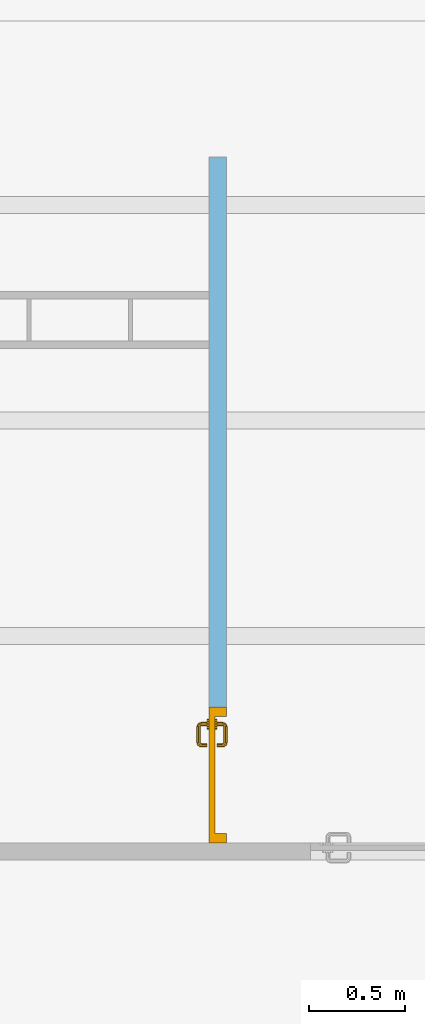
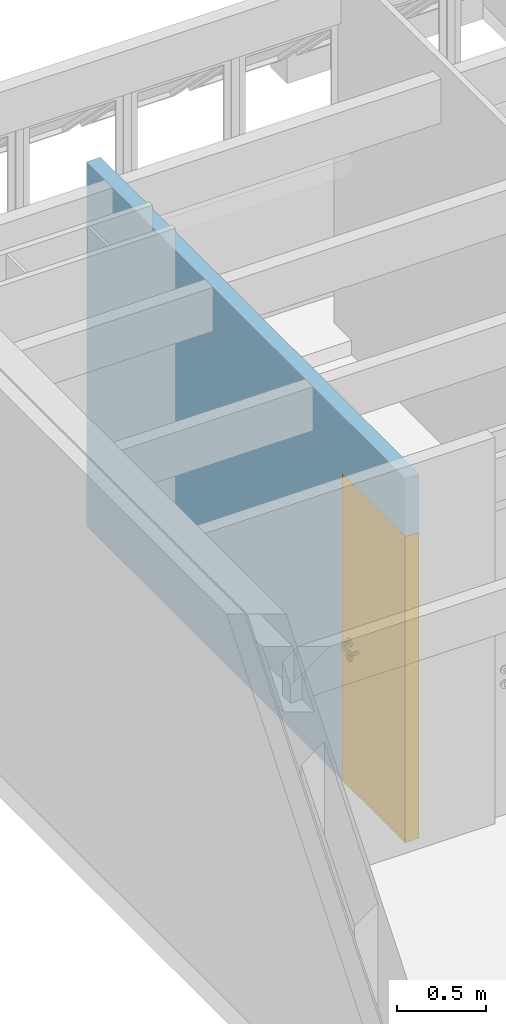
# One storey, part 4 of 22: 1 door, 1 opening, plus 1 element that does not belong to this part.
"""IFC2X3 building model written with IfcOpenShell, lengths in millimetres."""

from ifc_helpers import new_model, si_unit, direction, frame, frame_2d, origin_with_axes, origin_2d_with_axis, place, context, subcontext, project, spatial, polyline, rectangle, outline, extrude, open_shell, faceted_brep, surface_model, source, transform, mapped, material, layer, layer_set, layer_usage, type_object, type_shapes, element, fill, save


model = new_model("IFC2X3")

# Units and contexts
model_context = context("Model", 3, precision=1e-05, world=origin_with_axes(), true_north=direction((0.0, 1.0)))
body_context = subcontext(model_context, "Body", "Model", "MODEL_VIEW")
ifc_project = project(units=[si_unit("LENGTHUNIT", "METRE", prefix="MILLI"), si_unit("AREAUNIT", "SQUARE_METRE"), si_unit("VOLUMEUNIT", "CUBIC_METRE"), si_unit("PLANEANGLEUNIT", "RADIAN"), si_unit("TIMEUNIT", "SECOND"), si_unit("MASSUNIT", "GRAM")], contexts=[model_context])

# Site, building, storey
site_placement = place(None, origin_with_axes())
site = spatial("IfcSite", under=ifc_project, at=site_placement, Name="Site", CompositionType="ELEMENT")
building_placement = place(site_placement, origin_with_axes())
building = spatial("IfcBuilding", under=site, at=building_placement, Name="Construção", CompositionType="COMPLEX")
storey_placement = place(building_placement, frame((0.0, 0.0, 2650.0), z_axis=(0.0, 0.0, 1.0), x_axis=(1.0, 0.0, 0.0)))
storey = spatial("IfcBuildingStorey", under=building, at=storey_placement, Name="Segundo Pavimento", CompositionType="COMPLEX", Elevation=2650.0)

# Wall, opening, door
ifc_material = material(Name="GENÉRICO - VEDAÇÃO EXTERNA")
ifc_layer = layer(ifc_material, 90.0)
ifc_layer_set = layer_set([ifc_layer], Name="GENÉRICO - VEDAÇÃO EXTERNA 90")
ifc_layer_usage = layer_usage(ifc_layer_set, "AXIS2", "POSITIVE", 0.0)
wall_type = type_object("IfcWallType", Name="GENÉRICO - VEDAÇÃO EXTERNA 90", PredefinedType="STANDARD", material=ifc_layer_set)
wall_placement = place(storey_placement, frame((1730.0, 3765.2195667, 0.0), z_axis=(0.0, 0.0, 1.0), x_axis=(0.0, 1.0, 0.0)))
wall = element("IfcWallStandardCase", 1, at=wall_placement, inside=storey, type_object=wall_type, material=ifc_layer_usage, Name="APTO5-PAREDE-012", context=body_context, shape_type="SweptSolid", body=[
    extrude(rectangle(XDim=3580.0, YDim=90.0, at=origin_2d_with_axis()), frame((1790.0, 45.0, 0.0), z_axis=(0.0, 0.0, 1.0), x_axis=(1.0, 0.0, 0.0)), (0.0, 0.0, 1.0), 2500.0),
])
opening_placement = place(wall_placement, frame((710.0, 90.0, 0.0), z_axis=(0.0, 0.0, 1.0), x_axis=(-1.0, 0.0, 0.0)))
opening = element("IfcOpeningElement", 2, at=opening_placement, cuts=wall, ObjectType="Opening", context=body_context, shape_type="SweptSolid", body=[
    extrude(outline(polyline([(355.0, 1050.0), (355.0, -1050.0), (-355.0, -1050.0), (-355.0, 1050.0), (355.0, 1050.0)])), frame((355.0, 0.0, 1050.0), z_axis=(0.0, 1.0, 0.0), x_axis=(1.0, 0.0, 0.0)), (0.0, 0.0, 1.0), 270.0),
])
door_style = type_object("IfcDoorStyle", Name="Porta 25", ConstructionType="NOTDEFINED", OperationType="SINGLE_SWING_LEFT", ParameterTakesPrecedence=False, Sizeable=False)
shared_shape_1 = source(origin_with_axes(), body_context, "Body", "SolidModel", [
    extrude(outline(polyline([(10.0, -10.0), (10.0, -40.0), (-30.0, -40.0), (-30.0, 50.0), (20.0, 50.0), (20.0, -10.0), (10.0, -10.0)])), frame((30.0, 0.0, -40.0), z_axis=(0.0, 1.0, 0.0), x_axis=(1.0, 0.0, 0.0)), (0.0, 0.0, 1.0), 2050.0),
])
shared_shape_2 = source(origin_with_axes(), body_context, "Body", "SolidModel", [
    extrude(outline(polyline([(-10.0, -10.0), (-20.0, -10.0), (-20.0, 50.0), (30.0, 50.0), (30.0, -40.0), (-10.0, -40.0), (-10.0, -10.0)])), frame((680.0, 0.0, -40.0), z_axis=(0.0, 1.0, 0.0), x_axis=(1.0, 0.0, 0.0)), (0.0, 0.0, 1.0), 2050.0),
])
shared_shape_3 = source(origin_with_axes(), body_context, "Body", "SolidModel", [
    faceted_brep([(670.0, 2050.0, -30.0), (670.0, 2060.0, -30.0), (39.99999999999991, 2060.0, -29.99999999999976), (39.99999999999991, 2050.0, -29.99999999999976), (710.0, 2050.0, -90.0), (0.0, 2050.0, -90.0), (0.0, 2100.0, -90.0), (710.0, 2100.0, -90.0), (39.99999999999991, 2050.0, 0.0), (39.99999999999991, 2060.0, 0.0), (0.0, 2050.0, 0.0), (0.0, 2100.0, 0.0), (710.0, 2100.0, 0.0), (710.0, 2050.0, 0.0), (670.0, 2050.0, 0.0), (670.0, 2060.0, 0.0)], [[[0, 1, 2, 3]], [[4, 5, 6, 7]], [[8, 3, 2, 9]], [[10, 11, 6, 5]], [[11, 12, 7, 6]], [[12, 13, 4, 7]], [[0, 3, 8, 10, 5, 4, 13, 14]], [[15, 1, 0, 14]], [[9, 2, 1, 15]], [[9, 15, 14, 13, 12, 11, 10, 8]]]),
])
shared_shape_4 = source(origin_with_axes(), body_context, "Body", "SolidModel", [
    extrude(outline(polyline([(0.0, 27.00000000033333), (13.49999999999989, 23.38268590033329), (23.38268590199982, 13.50000000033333), (26.99999999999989, 3.333298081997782e-10), (23.38268590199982, -13.49999999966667), (13.49999999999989, -23.38268590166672), (0.0, -26.99999999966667), (-13.50000000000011, -23.38268590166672), (-23.38268590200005, -13.49999999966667), (-27.0, 3.333298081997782e-10), (-23.38268590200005, 13.50000000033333), (-13.50000000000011, 23.38268590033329), (0.0, 27.00000000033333)])), frame((90.0, 999.9999999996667, -40.0), z_axis=(0.0, 0.0, 1.0), x_axis=(1.0, 0.0, 0.0)), (0.0, 0.0, 1.0), 10.0),
])
shared_shape_5 = source(origin_with_axes(), body_context, "Body", "SolidModel", [
    faceted_brep([(67.48333950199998, 913.0, -39.0), (67.48333950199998, 913.0, -30.0), (64.0, 900.0, -30.0), (64.0, 900.0, -39.0), (67.48333950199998, 887.0, -30.0), (67.48333950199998, 887.0, -39.0), (63.0, 900.0, -30.0), (63.0, 900.0, -40.0), (66.61731409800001, 886.5, -40.0), (66.61731409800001, 886.5, -30.0), (66.61731409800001, 913.5, -30.0), (66.61731409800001, 913.5, -40.0), (77.0, 877.483339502, -30.0), (77.0, 877.483339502, -39.0), (90.0, 874.0, -30.0), (90.0, 874.0, -39.0), (76.5, 876.617314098, -40.0), (76.5, 876.617314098, -30.0), (77.0, 922.516660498, -39.0), (77.0, 922.516660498, -30.0), (103.0, 877.483339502, -39.0), (103.0, 877.483339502, -30.0), (112.516660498, 887.0, -30.0), (112.516660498, 887.0, -39.0), (90.0, 873.0, -40.0), (90.0, 873.0, -30.0), (112.516660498, 913.0, -30.0), (116.0, 900.0, -30.0), (90.0, 926.0, -30.0), (103.0, 922.516660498, -30.0), (117.0, 900.0, -30.0), (113.382685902, 913.5, -30.0), (103.5, 923.382685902, -30.0), (90.0, 927.0, -30.0), (76.5, 923.382685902, -30.0), (103.5, 876.617314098, -30.0), (113.382685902, 886.5, -30.0), (116.0, 900.0, -39.0), (112.516660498, 913.0, -39.0), (113.382685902, 886.5, -40.0), (117.0, 900.0, -40.0), (103.5, 876.617314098, -40.0), (82.53216922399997, 909.692280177, -40.0), (82.53216922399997, 909.692280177, -39.0), (85.0, 904.4, -39.0), (85.0, 904.4, -40.0), (85.0, 887.5, -39.0), (85.0, 887.5, -40.0), (86.46446609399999, 883.964466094, -40.0), (86.46446609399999, 883.964466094, -39.0), (90.0, 882.5, -40.0), (90.0, 882.5, -39.0), (76.5, 923.382685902, -40.0), (90.0, 926.0, -39.0), (90.0, 927.0, -40.0), (103.0, 922.516660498, -39.0), (113.382685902, 913.5, -40.0), (103.5, 923.382685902, -40.0), (95.0, 887.5, -40.0), (93.53553390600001, 883.964466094, -40.0), (93.53553390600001, 883.964466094, -39.0), (95.0, 887.5, -39.0), (84.62481768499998, 915.143815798, -40.0), (84.62481768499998, 915.143815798, -39.0), (83.279754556, 911.639806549, -39.0), (83.279754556, 911.639806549, -40.0), (90.0, 917.425445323, -40.0), (90.0, 917.425445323, -39.0), (95.37518231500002, 915.143815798, -40.0), (95.37518231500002, 915.143815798, -39.0), (96.720245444, 911.639806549, -39.0), (97.46783077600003, 909.692280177, -39.0), (95.0, 904.4, -39.0), (95.0, 904.4, -40.0), (97.46783077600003, 909.692280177, -40.0), (96.720245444, 911.639806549, -40.0)], [[[0, 1, 2, 3]], [[3, 2, 4, 5]], [[6, 7, 8, 9]], [[10, 11, 7, 6]], [[5, 4, 12, 13]], [[13, 12, 14, 15]], [[9, 8, 16, 17]], [[18, 19, 1, 0]], [[20, 21, 22, 23]], [[17, 16, 24, 25]], [[26, 27, 22, 21, 14, 12, 4, 2, 1, 19, 28, 29], [30, 31, 32, 33, 34, 10, 6, 9, 17, 25, 35, 36]], [[15, 14, 21, 20]], [[37, 27, 26, 38]], [[36, 39, 40, 30]], [[25, 24, 41, 35]], [[35, 41, 39, 36]], [[23, 22, 27, 37]], [[42, 43, 44, 45]], [[44, 46, 47, 45]], [[48, 47, 46, 49]], [[50, 48, 49, 51]], [[34, 52, 11, 10]], [[53, 28, 19, 18]], [[33, 54, 52, 34]], [[55, 29, 28, 53]], [[38, 26, 29, 55]], [[31, 56, 57, 32]], [[58, 59, 60, 61]], [[59, 50, 51, 60]], [[32, 57, 54, 33]], [[30, 40, 56, 31]], [[62, 63, 64, 43, 42, 65]], [[66, 67, 63, 62]], [[68, 69, 67, 66]], [[55, 53, 18, 0, 3, 5, 13, 15, 20, 23, 37, 38], [69, 70, 71, 72, 61, 60, 51, 49, 46, 44, 43, 64, 63, 67]], [[73, 72, 71, 74]], [[73, 58, 61, 72]], [[74, 71, 70, 69, 68, 75]], [[57, 56, 40, 39, 41, 24, 16, 8, 7, 11, 52, 54], [74, 75, 68, 66, 62, 65, 42, 45, 47, 48, 50, 59, 58, 73]]], outer=[[True], [True], [True], [True], [True], [True], [True], [True], [True], [True], [False, True], [True], [True], [True], [True], [True], [True], [True], [True], [True], [True], [True], [True], [True], [True], [True], [True], [True], [True], [True], [True], [True], [True], [True], [True, False], [True], [True], [True], [True, False]]),
])
shared_shape_6 = source(origin_with_axes(), body_context, "Body", "SurfaceModel", [
    surface_model("IfcShellBasedSurfaceModel", [(198.858192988, 990.0, -75.74025148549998), (200.0, 990.0, -70.0), (192.928932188, 992.928932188, -69.303560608), (192.197392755, 992.928932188, -72.9812576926), (198.858192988, 1010.0, -75.74025148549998), (200.0, 1010.0, -70.0), (207.071067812, 1007.07106781, -70.696439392), (205.518993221, 1007.07106781, -78.49924527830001), (200.0, 990.0, -40.0), (192.928932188, 992.928932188, -40.0), (190.0, 1000.0, -40.0), (190.0, 1000.0, -69.0150859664), (192.928932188, 1007.07106781, -40.0), (192.928932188, 1007.07106781, -69.303560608), (200.0, 1010.0, -40.0), (207.071067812, 1007.07106781, -40.0), (207.071067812, 992.928932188, -70.696439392), (207.071067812, 992.928932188, -40.0), (210.0, 1000.0, -40.0), (210.0, 1000.0, -70.9849140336), (205.518993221, 992.928932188, -78.49924527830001), (208.277987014, 1000.0, -79.6420579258), (189.438398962, 1000.0, -71.83844504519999), (192.197392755, 1007.07106781, -72.9812576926), (195.606601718, 990.0, -80.6066017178), (190.508645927, 992.928932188, -75.5086459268), (195.606601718, 1010.0, -80.6066017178), (200.704557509, 1007.07106781, -85.70455750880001), (190.508645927, 1007.07106781, -75.5086459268), (187.981257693, 1007.07106781, -77.19739275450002), (190.740251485, 1010.0, -83.8581929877), (188.397003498, 1000.0, -73.39700349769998), (186.838445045, 1000.0, -74.43839896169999), (184.015085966, 1000.0, -75.0), (184.303560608, 1007.07106781, -77.92893218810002), (187.981257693, 992.928932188, -77.19739275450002), (200.704557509, 992.928932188, -85.70455750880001), (202.816199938, 1000.0, -87.8161999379), (194.642057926, 1000.0, -93.2779870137), (193.499245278, 992.928932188, -90.51899322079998), (193.499245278, 1007.07106781, -90.51899322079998), (185.0, 1010.0, -85.0), (185.696439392, 1007.07106781, -92.07106781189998), (184.303560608, 992.928932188, -77.92893218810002), (190.740251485, 990.0, -83.8581929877), (105.984914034, 1000.0, -75.0), (105.696439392, 1007.07106781, -77.92893218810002), (105.0, 1010.0, -85.0), (103.161554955, 1000.0, -74.43839896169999), (102.018742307, 1007.07106781, -77.19739275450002), (105.696439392, 992.928932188, -77.92893218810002), (185.0, 990.0, -85.0), (102.018742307, 992.928932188, -77.19739275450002), (105.0, 990.0, -85.0), (185.696439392, 992.928932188, -92.07106781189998), (185.984914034, 1000.0, -95.0), (99.25974851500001, 990.0, -83.8581929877), (99.491354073, 1007.07106781, -75.5086459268), (99.25974851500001, 1010.0, -83.8581929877), (94.39339828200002, 1010.0, -80.6066017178), (96.50075472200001, 1007.07106781, -90.51899322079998), (89.29544249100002, 1007.07106781, -85.70455750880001), (104.303560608, 1007.07106781, -92.07106781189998), (101.602996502, 1000.0, -73.39700349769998), (104.303560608, 992.928932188, -92.07106781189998), (100.561601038, 1000.0, -71.83844504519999), (97.80260724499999, 1007.07106781, -72.9812576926), (99.491354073, 992.928932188, -75.5086459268), (104.015085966, 1000.0, -95.0), (97.80260724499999, 992.928932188, -72.9812576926), (94.39339828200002, 990.0, -80.6066017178), (96.50075472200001, 992.928932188, -90.51899322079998), (95.357942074, 1000.0, -93.2779870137), (91.14180701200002, 1010.0, -75.74025148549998), (100.0, 1000.0, -69.0150859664), (97.07106781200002, 1007.07106781, -69.303560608), (87.18380006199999, 1000.0, -87.8161999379), (97.07106781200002, 1007.07106781, -40.0), (90.0, 1010.0, -70.0), (90.0, 1010.0, -40.0), (100.0, 1000.0, -40.0), (97.07106781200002, 992.928932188, -69.303560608), (97.07106781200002, 992.928932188, -40.0), (90.0, 990.0, -40.0), (90.0, 990.0, -70.0), (91.14180701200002, 990.0, -75.74025148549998), (89.29544249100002, 992.928932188, -85.70455750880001), (84.48100677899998, 992.928932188, -78.49924527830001), (82.92893218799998, 992.928932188, -70.696439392), (81.72201298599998, 1000.0, -79.6420579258), (84.48100677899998, 1007.07106781, -78.49924527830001), (82.92893218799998, 1007.07106781, -70.696439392), (80.0, 1000.0, -70.9849140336), (82.92893218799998, 1007.07106781, -40.0), (82.92893218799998, 992.928932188, -40.0), (80.0, 1000.0, -40.0)], [open_shell([[[0, 1, 2, 3]], [[4, 5, 6, 7]], [[1, 8, 9, 2]], [[2, 9, 10, 11]], [[11, 10, 12, 13]], [[13, 12, 14, 5]], [[5, 14, 15, 6]], [[16, 17, 8, 1]], [[18, 15, 14, 12, 10, 9, 8, 17]], [[6, 15, 18, 19]], [[19, 18, 17, 16]], [[20, 16, 1, 0]], [[7, 6, 19, 21]], [[22, 11, 13, 23]], [[3, 2, 11, 22]], [[24, 0, 3, 25]], [[26, 4, 7, 27]], [[23, 13, 5, 4]], [[28, 23, 4, 26]], [[29, 28, 26, 30]], [[31, 22, 23, 28]], [[32, 31, 28, 29]], [[25, 3, 22, 31]], [[33, 32, 29, 34]], [[35, 25, 31, 32]], [[36, 20, 0, 24]], [[21, 19, 16, 20]], [[37, 21, 20, 36]], [[38, 37, 36, 39]], [[27, 7, 21, 37]], [[40, 27, 37, 38]], [[30, 26, 27, 40]], [[34, 29, 30, 41]], [[41, 30, 40, 42]], [[43, 35, 32, 33]], [[44, 24, 25, 35]], [[45, 33, 34, 46]], [[46, 34, 41, 47]], [[48, 45, 46, 49]], [[50, 43, 33, 45]], [[51, 44, 35, 43]], [[39, 36, 24, 44]], [[52, 50, 45, 48]], [[53, 51, 43, 50]], [[54, 39, 44, 51]], [[42, 40, 38, 55]], [[56, 53, 50, 52]], [[57, 49, 58, 59]], [[59, 58, 60, 61]], [[47, 41, 42, 62]], [[49, 46, 47, 58]], [[63, 48, 49, 57]], [[64, 54, 51, 53]], [[55, 38, 39, 54]], [[65, 63, 57, 66]], [[67, 52, 48, 63]], [[62, 42, 55, 68]], [[58, 47, 62, 60]], [[69, 67, 63, 65]], [[70, 56, 52, 67]], [[71, 64, 53, 56]], [[68, 55, 54, 64]], [[60, 62, 68, 72]], [[66, 57, 59, 73]], [[74, 65, 66, 75]], [[72, 68, 64, 71]], [[61, 60, 72, 76]], [[77, 75, 78, 79]], [[80, 74, 75, 77]], [[81, 69, 65, 74]], [[82, 81, 74, 80]], [[83, 84, 81, 82]], [[85, 70, 67, 69]], [[86, 71, 56, 70]], [[76, 72, 71, 86]], [[84, 85, 69, 81]], [[87, 86, 70, 85]], [[88, 87, 85, 84]], [[89, 76, 86, 87]], [[73, 59, 61, 90]], [[75, 66, 73, 78]], [[90, 61, 76, 89]], [[78, 73, 90, 91]], [[91, 90, 89, 92]], [[79, 78, 91, 93]], [[94, 88, 84, 83]], [[92, 89, 87, 88]], [[93, 91, 92, 95]], [[95, 92, 88, 94]]])]),
])
shared_shape_7 = source(origin_with_axes(), body_context, "Body", "SolidModel", [
    extrude(outline(polyline([(0.0, 27.00000000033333), (13.49999999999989, 23.38268590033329), (23.38268590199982, 13.50000000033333), (26.99999999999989, 3.333298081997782e-10), (23.38268590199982, -13.49999999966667), (13.49999999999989, -23.38268590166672), (0.0, -26.99999999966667), (-13.50000000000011, -23.38268590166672), (-23.38268590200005, -13.49999999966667), (-27.0, 3.333298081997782e-10), (-23.38268590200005, 13.50000000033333), (-13.50000000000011, 23.38268590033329), (0.0, 27.00000000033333)])), frame((90.0, 999.9999999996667, 0.0), z_axis=(0.0, 0.0, 1.0), x_axis=(1.0, 0.0, 0.0)), (0.0, 0.0, 1.0), 10.0),
])
shared_shape_8 = source(origin_with_axes(), body_context, "Body", "SolidModel", [
    faceted_brep([(86.46446609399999, 883.964466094, 9.0), (85.0, 887.5, 9.0), (85.0, 887.5, 10.0), (86.46446609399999, 883.964466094, 10.0), (90.0, 882.5, 9.0), (90.0, 882.5, 10.0), (76.5, 923.382685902, 10.0), (76.5, 923.382685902, 0.0), (66.61731409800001, 913.5, 0.0), (66.61731409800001, 913.5, 10.0), (90.0, 927.0, 10.0), (90.0, 927.0, 0.0), (76.5, 876.617314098, 10.0), (76.5, 876.617314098, 0.0), (90.0, 873.0, 0.0), (90.0, 873.0, 10.0), (103.5, 876.617314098, 0.0), (103.5, 876.617314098, 10.0), (113.382685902, 886.5, 0.0), (113.382685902, 886.5, 10.0), (117.0, 900.0, 0.0), (117.0, 900.0, 10.0), (113.382685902, 913.5, 0.0), (113.382685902, 913.5, 10.0), (103.5, 923.382685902, 10.0), (103.5, 923.382685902, 0.0), (66.61731409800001, 886.5, 10.0), (66.61731409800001, 886.5, 0.0), (63.0, 900.0, 10.0), (63.0, 900.0, 0.0), (64.0, 900.0, 9.0), (67.48333950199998, 887.0, 9.0), (67.48333950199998, 887.0, 0.0), (64.0, 900.0, 0.0), (67.48333950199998, 913.0, 9.0), (67.48333950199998, 913.0, 0.0), (77.0, 922.516660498, 9.0), (77.0, 922.516660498, 0.0), (116.0, 900.0, 0.0), (112.516660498, 913.0, 0.0), (103.0, 922.516660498, 0.0), (90.0, 926.0, 0.0), (77.0, 877.483339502, 0.0), (90.0, 874.0, 0.0), (103.0, 877.483339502, 0.0), (112.516660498, 887.0, 0.0), (77.0, 877.483339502, 9.0), (90.0, 874.0, 9.0), (103.0, 877.483339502, 9.0), (112.516660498, 887.0, 9.0), (90.0, 926.0, 9.0), (103.0, 922.516660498, 9.0), (85.0, 904.4, 10.0), (85.0, 904.4, 9.0), (82.53216922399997, 909.692280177, 9.0), (82.53216922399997, 909.692280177, 10.0), (116.0, 900.0, 9.0), (93.53553390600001, 883.964466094, 9.0), (93.53553390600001, 883.964466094, 10.0), (112.516660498, 913.0, 9.0), (84.62481768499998, 915.143815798, 9.0), (84.62481768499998, 915.143815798, 10.0), (83.279754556, 911.639806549, 10.0), (83.279754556, 911.639806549, 9.0), (90.0, 917.425445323, 9.0), (90.0, 917.425445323, 10.0), (95.37518231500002, 915.143815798, 10.0), (96.720245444, 911.639806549, 10.0), (97.46783077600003, 909.692280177, 10.0), (95.0, 904.4, 10.0), (95.0, 887.5, 10.0), (95.37518231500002, 915.143815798, 9.0), (95.0, 887.5, 9.0), (95.0, 904.4, 9.0), (97.46783077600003, 909.692280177, 9.0), (96.720245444, 911.639806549, 9.0)], [[[0, 1, 2, 3]], [[4, 0, 3, 5]], [[6, 7, 8, 9]], [[10, 11, 7, 6]], [[12, 13, 14, 15]], [[15, 14, 16, 17]], [[17, 16, 18, 19]], [[19, 18, 20, 21]], [[21, 20, 22, 23]], [[24, 25, 11, 10]], [[23, 22, 25, 24]], [[26, 27, 13, 12]], [[28, 29, 27, 26]], [[9, 8, 29, 28]], [[30, 31, 32, 33]], [[34, 30, 33, 35]], [[36, 34, 35, 37]], [[18, 16, 14, 13, 27, 29, 8, 7, 11, 25, 22, 20], [38, 39, 40, 41, 37, 35, 33, 32, 42, 43, 44, 45]], [[31, 46, 42, 32]], [[46, 47, 43, 42]], [[47, 48, 44, 43]], [[48, 49, 45, 44]], [[50, 36, 37, 41]], [[51, 50, 41, 40]], [[52, 2, 1, 53]], [[54, 55, 52, 53]], [[49, 56, 38, 45]], [[57, 4, 5, 58]], [[56, 59, 39, 38]], [[59, 51, 40, 39]], [[60, 61, 62, 55, 54, 63]], [[64, 65, 61, 60]], [[23, 24, 10, 6, 9, 28, 26, 12, 15, 17, 19, 21], [66, 67, 68, 69, 70, 58, 5, 3, 2, 52, 55, 62, 61, 65]], [[71, 66, 65, 64]], [[72, 57, 58, 70]], [[73, 69, 68, 74]], [[73, 72, 70, 69]], [[74, 68, 67, 66, 71, 75]], [[50, 51, 59, 56, 49, 48, 47, 46, 31, 30, 34, 36], [74, 75, 71, 64, 60, 63, 54, 53, 1, 0, 4, 57, 72, 73]]]),
])
shared_shape_9 = source(origin_with_axes(), body_context, "Body", "SurfaceModel", [
    surface_model("IfcShellBasedSurfaceModel", [(200.0, 990.0, 40.0), (192.928932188, 992.928932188, 39.303560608), (192.928932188, 992.928932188, 10.0), (200.0, 990.0, 10.0), (190.0, 1000.0, 39.0150859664), (190.0, 1000.0, 10.0), (192.197392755, 992.928932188, 42.9812576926), (189.438398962, 1000.0, 41.8384450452), (192.928932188, 1007.07106781, 39.303560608), (192.928932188, 1007.07106781, 10.0), (192.197392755, 1007.07106781, 42.9812576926), (200.0, 1010.0, 40.0), (200.0, 1010.0, 10.0), (198.858192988, 1010.0, 45.7402514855), (207.071067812, 1007.07106781, 40.696439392), (207.071067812, 1007.07106781, 10.0), (205.518993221, 1007.07106781, 48.4992452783), (210.0, 1000.0, 40.9849140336), (210.0, 1000.0, 10.0), (207.071067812, 992.928932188, 10.0), (190.508645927, 1007.07106781, 45.5086459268), (195.606601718, 1010.0, 50.6066017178), (188.397003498, 1000.0, 43.3970034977), (187.981257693, 1007.07106781, 47.1973927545), (190.740251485, 1010.0, 53.8581929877), (190.508645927, 992.928932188, 45.5086459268), (186.838445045, 1000.0, 44.4383989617), (207.071067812, 992.928932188, 40.696439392), (198.858192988, 990.0, 45.7402514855), (200.704557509, 1007.07106781, 55.7045575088), (208.277987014, 1000.0, 49.6420579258), (205.518993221, 992.928932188, 48.4992452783), (200.704557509, 992.928932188, 55.7045575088), (195.606601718, 990.0, 50.6066017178), (193.499245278, 1007.07106781, 60.5189932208), (202.816199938, 1000.0, 57.8161999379), (194.642057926, 1000.0, 63.2779870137), (185.696439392, 1007.07106781, 62.0710678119), (185.984914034, 1000.0, 65.0), (193.499245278, 992.928932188, 60.5189932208), (185.0, 1010.0, 55.0), (184.303560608, 1007.07106781, 47.9289321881), (105.0, 1010.0, 55.0), (104.303560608, 1007.07106781, 62.0710678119), (105.696439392, 1007.07106781, 47.9289321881), (187.981257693, 992.928932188, 47.1973927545), (184.015085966, 1000.0, 45.0), (105.696439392, 992.928932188, 47.9289321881), (105.984914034, 1000.0, 45.0), (184.303560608, 992.928932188, 47.9289321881), (190.740251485, 990.0, 53.8581929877), (102.018742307, 1007.07106781, 47.1973927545), (99.25974851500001, 1010.0, 53.8581929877), (103.161554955, 1000.0, 44.4383989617), (102.018742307, 992.928932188, 47.1973927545), (101.602996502, 1000.0, 43.3970034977), (99.491354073, 1007.07106781, 45.5086459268), (185.0, 990.0, 55.0), (185.696439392, 992.928932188, 62.0710678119), (105.0, 990.0, 55.0), (94.39339828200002, 1010.0, 50.6066017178), (104.303560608, 992.928932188, 62.0710678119), (99.25974851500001, 990.0, 53.8581929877), (104.015085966, 1000.0, 65.0), (96.50075472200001, 1007.07106781, 60.5189932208), (95.357942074, 1000.0, 63.2779870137), (96.50075472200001, 992.928932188, 60.5189932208), (89.29544249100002, 992.928932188, 55.7045575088), (94.39339828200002, 990.0, 50.6066017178), (87.18380006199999, 1000.0, 57.8161999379), (89.29544249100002, 1007.07106781, 55.7045575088), (81.72201298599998, 1000.0, 49.6420579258), (84.48100677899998, 992.928932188, 48.4992452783), (84.48100677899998, 1007.07106781, 48.4992452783), (97.80260724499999, 1007.07106781, 42.9812576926), (91.14180701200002, 1010.0, 45.7402514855), (97.07106781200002, 1007.07106781, 39.303560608), (90.0, 1010.0, 40.0), (97.07106781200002, 1007.07106781, 10.0), (90.0, 1010.0, 10.0), (82.92893218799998, 1007.07106781, 40.696439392), (91.14180701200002, 990.0, 45.7402514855), (99.491354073, 992.928932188, 45.5086459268), (97.80260724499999, 992.928932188, 42.9812576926), (100.561601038, 1000.0, 41.8384450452), (100.0, 1000.0, 39.0150859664), (97.07106781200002, 992.928932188, 39.303560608), (100.0, 1000.0, 10.0), (90.0, 990.0, 40.0), (97.07106781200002, 992.928932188, 10.0), (82.92893218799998, 992.928932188, 40.696439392), (90.0, 990.0, 10.0), (82.92893218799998, 1007.07106781, 10.0), (80.0, 1000.0, 40.9849140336), (80.0, 1000.0, 10.0), (82.92893218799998, 992.928932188, 10.0)], [open_shell([[[0, 1, 2, 3]], [[1, 4, 5, 2]], [[6, 7, 4, 1]], [[4, 8, 9, 5]], [[7, 10, 8, 4]], [[8, 11, 12, 9]], [[10, 13, 11, 8]], [[11, 14, 15, 12]], [[13, 16, 14, 11]], [[14, 17, 18, 15]], [[18, 19, 3, 2, 5, 9, 12, 15]], [[20, 21, 13, 10]], [[22, 20, 10, 7]], [[23, 24, 21, 20]], [[25, 22, 7, 6]], [[26, 23, 20, 22]], [[27, 0, 3, 19]], [[28, 6, 1, 0]], [[21, 29, 16, 13]], [[16, 30, 17, 14]], [[17, 27, 19, 18]], [[31, 28, 0, 27]], [[30, 31, 27, 17]], [[32, 33, 28, 31]], [[24, 34, 29, 21]], [[29, 35, 30, 16]], [[34, 36, 35, 29]], [[35, 32, 31, 30]], [[37, 38, 36, 34]], [[36, 39, 32, 35]], [[40, 37, 34, 24]], [[41, 40, 24, 23]], [[42, 43, 37, 40]], [[44, 42, 40, 41]], [[33, 25, 6, 28]], [[45, 26, 22, 25]], [[46, 41, 23, 26]], [[47, 48, 46, 49]], [[50, 45, 25, 33]], [[49, 46, 26, 45]], [[48, 44, 41, 46]], [[51, 52, 42, 44]], [[53, 51, 44, 48]], [[54, 53, 48, 47]], [[55, 56, 51, 53]], [[39, 50, 33, 32]], [[57, 49, 45, 50]], [[58, 57, 50, 39]], [[59, 47, 49, 57]], [[56, 60, 52, 51]], [[38, 58, 39, 36]], [[61, 59, 57, 58]], [[62, 54, 47, 59]], [[63, 61, 58, 38]], [[52, 64, 43, 42]], [[43, 63, 38, 37]], [[64, 65, 63, 43]], [[66, 62, 59, 61]], [[65, 66, 61, 63]], [[67, 68, 62, 66]], [[69, 67, 66, 65]], [[70, 69, 65, 64]], [[71, 72, 67, 69]], [[60, 70, 64, 52]], [[73, 71, 69, 70]], [[74, 75, 60, 56]], [[76, 77, 75, 74]], [[75, 73, 70, 60]], [[78, 79, 77, 76]], [[77, 80, 73, 75]], [[72, 81, 68, 67]], [[68, 82, 54, 62]], [[81, 83, 82, 68]], [[82, 55, 53, 54]], [[84, 74, 56, 55]], [[83, 84, 55, 82]], [[85, 76, 74, 84]], [[86, 85, 84, 83]], [[87, 78, 76, 85]], [[88, 86, 83, 81]], [[89, 87, 85, 86]], [[90, 88, 81, 72]], [[91, 89, 86, 88]], [[79, 92, 80, 77]], [[80, 93, 71, 73]], [[92, 94, 93, 80]], [[93, 90, 72, 71]], [[95, 91, 88, 90]], [[94, 95, 90, 93]]])]),
])
shared_shape_10 = source(origin_with_axes(), body_context, "Body", "SolidModel", [
    extrude(rectangle(XDim=2060.0, YDim=630.0, at=frame_2d((0.0, 0.0), x_axis=(0.0, 1.0))), frame((355.0, 1030.0, -30.0), z_axis=(0.0, 0.0, 1.0), x_axis=(1.0, 0.0, 0.0)), (0.0, 0.0, 1.0), 30.0),
])
shared_shape_11 = source(origin_with_axes(), body_context, "Body", "MappedRepresentation", [
    mapped(shared_shape_1, transform((0.0, 0.0, 0.0))),
    mapped(shared_shape_2, transform((0.0, 0.0, 0.0))),
    mapped(shared_shape_3, transform((0.0, 0.0, 0.0))),
    mapped(shared_shape_4, transform((0.0, 0.0, 0.0))),
    mapped(shared_shape_5, transform((0.0, 0.0, 0.0))),
    mapped(shared_shape_6, transform((0.0, 0.0, 0.0))),
    mapped(shared_shape_7, transform((0.0, 0.0, 0.0))),
    mapped(shared_shape_8, transform((0.0, 0.0, 0.0))),
    mapped(shared_shape_9, transform((0.0, 0.0, 0.0))),
    mapped(shared_shape_10, transform((0.0, 0.0, 0.0))),
])
type_shapes(door_style, [shared_shape_11])
door_placement = place(opening_placement, origin_with_axes())
door = element("IfcDoor", 3, at=door_placement, inside=storey, type_object=door_style, Name="APTO5-PORTA-003", OverallHeight=2100.0, OverallWidth=710.0, context=body_context, shape_type="MappedRepresentation", body=[
    mapped(shared_shape_11, transform((0.0, 0.0, 0.0), x_axis=(1.0, 0.0, 0.0), y_axis=(0.0, 0.0, 1.0), z_axis=(0.0, -1.0, 0.0), scale=1.0)),
])
fill(opening, door)

save(model, "model.ifc")
